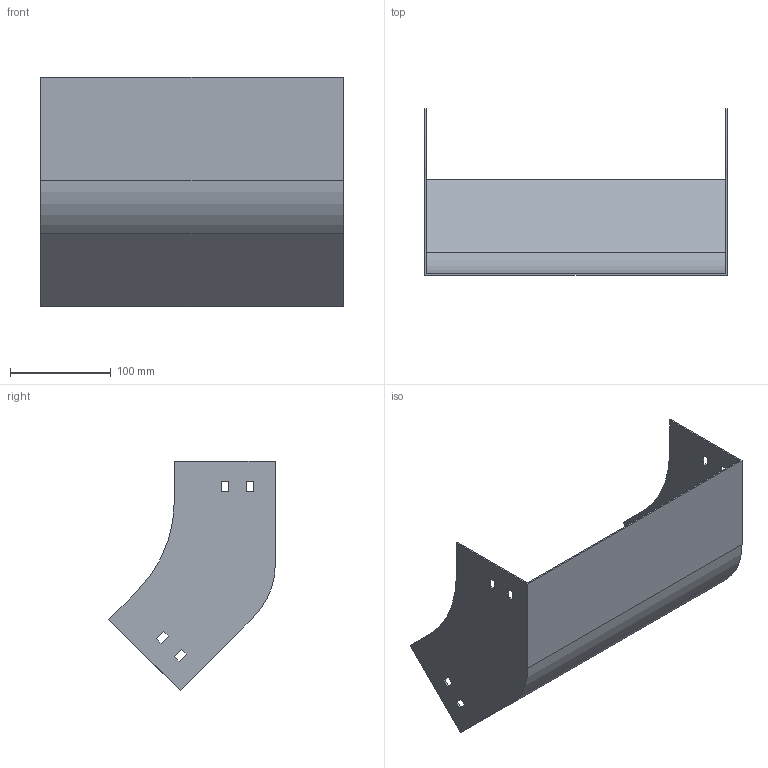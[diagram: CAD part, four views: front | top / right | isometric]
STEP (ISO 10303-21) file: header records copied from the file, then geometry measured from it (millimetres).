
FILE_DESCRIPTION (( 'STEP AP214' ), '1' );
FILE_NAME ('S4_301.step', '2025-07-16T09:26:43', ( '' ), ( '' ), 'SwSTEP 2.0', 'SolidWorks 2023', '' );
FILE_SCHEMA (( 'AUTOMOTIVE_DESIGN' ));
Length unit declared in the file: millimetre
Products named in the file (1): S4_301
Bounding box: 300 x 164.9 x 227.38 mm (x, y, z)
Volume: 184277.2 mm3; surface area: 248138.2 mm2
Topology: 1 solids, 1 shells, 50 faces, 144 edges, 96 vertices
Faces by surface type: plane 46, cylinder 4
Entity records: 1671 total; most frequent: CARTESIAN_POINT 291, ORIENTED_EDGE 288, DIRECTION 254, EDGE_CURVE 144, LINE 136, VECTOR 136, VERTEX_POINT 96, EDGE_LOOP 66
